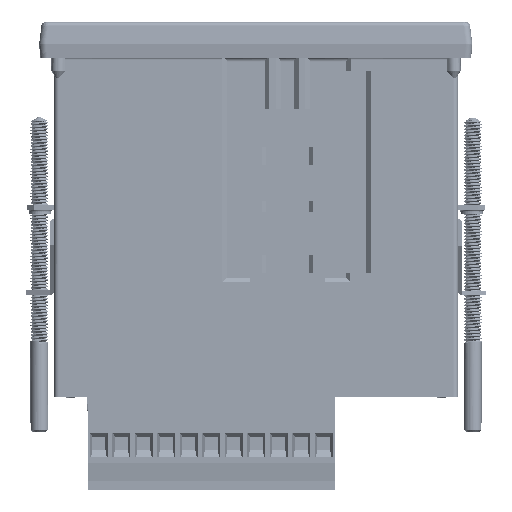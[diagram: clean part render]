
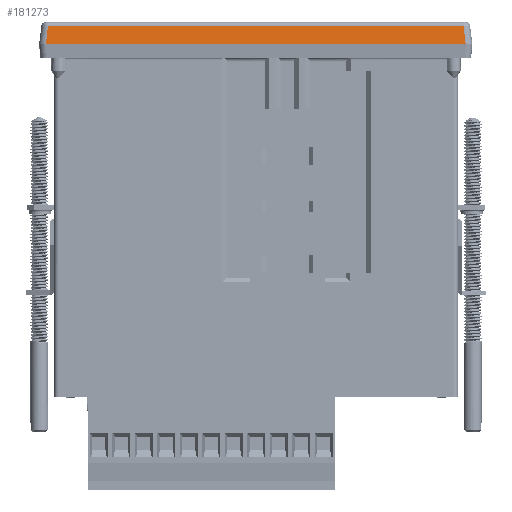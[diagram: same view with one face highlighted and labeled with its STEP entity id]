
A CAD part, front view. The second image highlights one B-rep face of the part: STEP entity #181273.
In plain terms, the highlighted planar face has unit normal (0, -0.993, 0.122) as drawn and (0, -0.993, -0.122) by its records, which use the part's own axes.
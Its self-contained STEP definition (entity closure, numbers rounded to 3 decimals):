
#100 = CARTESIAN_POINT ( 'NONE',  ( 32.547, -16.991, 0.878 ) ) ;
#5040 = VECTOR ( 'NONE', #140835, 1000. ) ;
#12003 = VECTOR ( 'NONE', #39768, 1000. ) ;
#16703 = CARTESIAN_POINT ( 'NONE',  ( 32.408, -16.853, -0.249 ) ) ;
#17836 = CARTESIAN_POINT ( 'NONE',  ( -60.368, -17.497, 5. ) ) ;
#17896 = LINE ( 'NONE', #226556, #12003 ) ;
#18075 = ORIENTED_EDGE ( 'NONE', *, *, #66389, .T. ) ;
#19655 = CARTESIAN_POINT ( 'NONE',  ( 73.942, -16.888, 0.037 ) ) ;
#19946 = CARTESIAN_POINT ( 'NONE',  ( 33.053, -17.497, 5. ) ) ;
#20981 = ORIENTED_EDGE ( 'NONE', *, *, #169428, .F. ) ;
#30081 = CARTESIAN_POINT ( 'NONE',  ( 73.942, -17.497, 5. ) ) ;
#32732 = VERTEX_POINT ( 'NONE', #150596 ) ;
#33373 = LINE ( 'NONE', #151219, #226936 ) ;
#34861 = EDGE_CURVE ( 'NONE', #149754, #70452, #201664, .T. ) ;
#36753 = CARTESIAN_POINT ( 'NONE',  ( -60.366, -17.497, 5. ) ) ;
#36795 = EDGE_LOOP ( 'NONE', ( #20981, #90072, #18075, #225538, #214420, #122481 ) ) ;
#37374 = CARTESIAN_POINT ( 'NONE',  ( -60.37, -17.497, 5. ) ) ;
#38568 = DIRECTION ( 'NONE',  ( 0., 0.122, -0.993 ) ) ;
#39768 = DIRECTION ( 'NONE',  ( 1., 0., 0. ) ) ;
#66389 = EDGE_CURVE ( 'NONE', #32732, #207832, #17896, .T. ) ;
#70452 = VERTEX_POINT ( 'NONE', #190065 ) ;
#72086 = EDGE_CURVE ( 'NONE', #143548, #207832, #140173, .T. ) ;
#90072 = ORIENTED_EDGE ( 'NONE', *, *, #158260, .T. ) ;
#110070 = DIRECTION ( 'NONE',  ( -0.121, 0.121, -0.985 ) ) ;
#115159 = DIRECTION ( 'NONE',  ( -1., -0.001, 0.006 ) ) ;
#122481 = ORIENTED_EDGE ( 'NONE', *, *, #34861, .F. ) ;
#130058 = CARTESIAN_POINT ( 'NONE',  ( -60.37, -17.497, 5. ) ) ;
#136303 = CARTESIAN_POINT ( 'NONE',  ( -60.366, -17.497, 5. ) ) ;
#140173 = LINE ( 'NONE', #16703, #234123 ) ;
#140835 = DIRECTION ( 'NONE',  ( 0.121, 0.121, -0.985 ) ) ;
#143548 = VERTEX_POINT ( 'NONE', #19946 ) ;
#148879 = CARTESIAN_POINT ( 'NONE',  ( -60.367, -17.497, 5. ) ) ;
#149754 = VERTEX_POINT ( 'NONE', #136303 ) ;
#150596 = CARTESIAN_POINT ( 'NONE',  ( -59.863, -16.991, 0.878 ) ) ;
#150687 = DIRECTION ( 'NONE',  ( 0., -0.993, -0.122 ) ) ;
#151219 = CARTESIAN_POINT ( 'NONE',  ( 33.053, -17.497, 5. ) ) ;
#151817 = VECTOR ( 'NONE', #235854, 1000. ) ;
#158260 = EDGE_CURVE ( 'NONE', #198480, #32732, #210278, .T. ) ;
#159345 = B_SPLINE_CURVE_WITH_KNOTS ( 'NONE', 3,
 ( #130058, #17836, #148879, #36753 ),
 .UNSPECIFIED., .F., .F.,
 ( 4, 4 ),
 ( 0., 1. ),
 .UNSPECIFIED. ) ;
#169428 = EDGE_CURVE ( 'NONE', #198480, #149754, #159345, .T. ) ;
#181273 = ADVANCED_FACE ( 'NONE', ( #220575 ), #187615, .T. ) ;
#187615 = PLANE ( 'NONE',  #214840 ) ;
#190065 = CARTESIAN_POINT ( 'NONE',  ( 33.049, -17.497, 5. ) ) ;
#191649 = EDGE_CURVE ( 'NONE', #143548, #70452, #33373, .T. ) ;
#196558 = CARTESIAN_POINT ( 'NONE',  ( -60.37, -17.497, 5. ) ) ;
#198480 = VERTEX_POINT ( 'NONE', #37374 ) ;
#201664 = LINE ( 'NONE', #30081, #151817 ) ;
#207832 = VERTEX_POINT ( 'NONE', #100 ) ;
#210278 = LINE ( 'NONE', #196558, #5040 ) ;
#214420 = ORIENTED_EDGE ( 'NONE', *, *, #191649, .T. ) ;
#214840 = AXIS2_PLACEMENT_3D ( 'NONE', #19655, #150687, #38568 ) ;
#220575 = FACE_OUTER_BOUND ( 'NONE', #36795, .T. ) ;
#225538 = ORIENTED_EDGE ( 'NONE', *, *, #72086, .F. ) ;
#226556 = CARTESIAN_POINT ( 'NONE',  ( 73.942, -16.991, 0.878 ) ) ;
#226936 = VECTOR ( 'NONE', #115159, 1000. ) ;
#234123 = VECTOR ( 'NONE', #110070, 1000. ) ;
#235854 = DIRECTION ( 'NONE',  ( 1., 0., 0. ) ) ;
